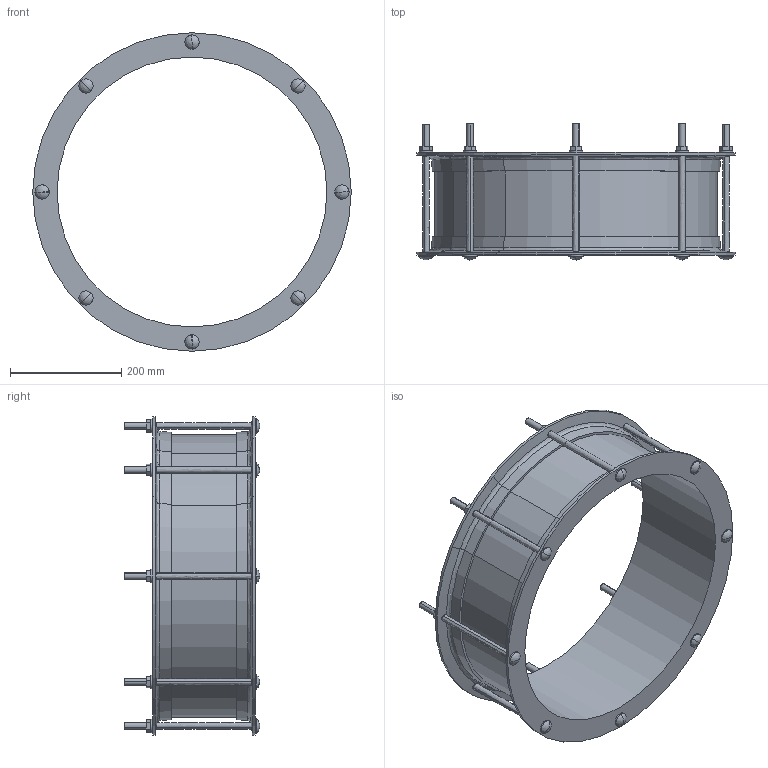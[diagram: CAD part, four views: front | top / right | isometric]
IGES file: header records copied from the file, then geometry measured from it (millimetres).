
Start section:  PTC IGES file: VJC_480.igs
Global section: file name: VJC_480.igs; native system: Creo Parametric by PTC Inc.; preprocessor: 2016130; author: mfairey; organization: Unknown; date: 20181206.095930; units: millimetre
Bounding box: 571.2 x 243.33 x 571.2 mm (x, y, z)
Surface area: 880464.5 mm2 (no closed solid volume)
Topology: 0 solids, 0 shells, 176 faces, 912 edges, 896 vertices
Faces by surface type: revolution 100, bspline 76
